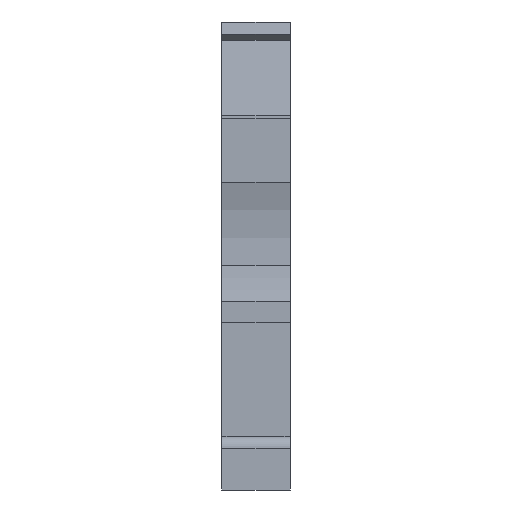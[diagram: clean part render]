
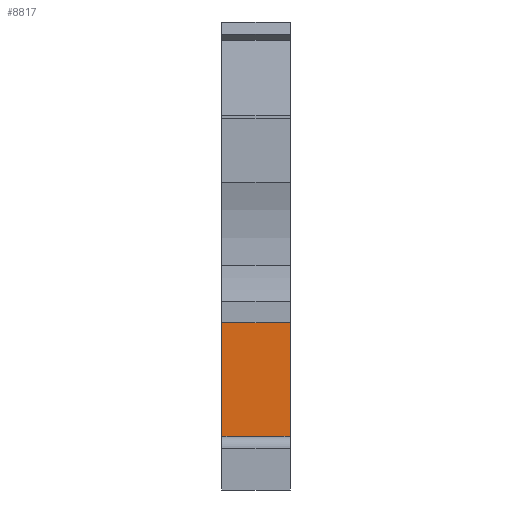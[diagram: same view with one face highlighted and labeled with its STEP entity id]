
A CAD part, front view. The second image highlights one B-rep face of the part: STEP entity #8817.
In plain terms, the highlighted planar face has unit normal (0, -1, 0).
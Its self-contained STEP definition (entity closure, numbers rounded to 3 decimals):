
#574=CARTESIAN_POINT('',(5.15,3.8,12.65));
#575=VERTEX_POINT('',#574);
#582=CARTESIAN_POINT('',(5.15,3.8,1.55));
#583=VERTEX_POINT('',#582);
#584=CARTESIAN_POINT('',(5.15,3.8,1.55));
#585=DIRECTION('',(0.,0.,1.));
#586=VECTOR('',#585,11.1);
#587=LINE('',#584,#586);
#588=EDGE_CURVE('',#583,#575,#587,.T.);
#844=CARTESIAN_POINT('',(1.,3.8,1.55));
#845=VERTEX_POINT('',#844);
#846=CARTESIAN_POINT('',(5.15,3.8,1.55));
#847=DIRECTION('',(-1.,0.,0.));
#848=VECTOR('',#847,4.15);
#849=LINE('',#846,#848);
#850=EDGE_CURVE('',#583,#845,#849,.T.);
#5134=CARTESIAN_POINT('',(1.,3.8,4.05));
#5135=VERTEX_POINT('',#5134);
#5142=CARTESIAN_POINT('',(0.,3.8,4.05));
#5143=VERTEX_POINT('',#5142);
#5144=CARTESIAN_POINT('',(0.,3.8,4.05));
#5145=DIRECTION('',(1.,0.,-0.));
#5146=VECTOR('',#5145,1.);
#5147=LINE('',#5144,#5146);
#5148=EDGE_CURVE('',#5143,#5135,#5147,.T.);
#8782=CARTESIAN_POINT('',(1.,3.8,1.55));
#8783=DIRECTION('',(0.,0.,1.));
#8784=VECTOR('',#8783,2.5);
#8785=LINE('',#8782,#8784);
#8786=EDGE_CURVE('',#845,#5135,#8785,.T.);
#8792=CARTESIAN_POINT('',(0.,3.8,12.65));
#8793=DIRECTION('',(0.,1.,0.));
#8794=DIRECTION('',(0.,0.,1.));
#8795=AXIS2_PLACEMENT_3D('',#8792,#8793,#8794);
#8796=PLANE('',#8795);
#8797=ORIENTED_EDGE('',*,*,#588,.T.);
#8798=CARTESIAN_POINT('',(0.,3.8,12.65));
#8799=VERTEX_POINT('',#8798);
#8800=CARTESIAN_POINT('',(0.,3.8,12.65));
#8801=DIRECTION('',(1.,0.,0.));
#8802=VECTOR('',#8801,5.15);
#8803=LINE('',#8800,#8802);
#8804=EDGE_CURVE('',#8799,#575,#8803,.T.);
#8805=ORIENTED_EDGE('',*,*,#8804,.F.);
#8806=CARTESIAN_POINT('',(0.,3.8,4.05));
#8807=DIRECTION('',(0.,-0.,1.));
#8808=VECTOR('',#8807,8.6);
#8809=LINE('',#8806,#8808);
#8810=EDGE_CURVE('',#5143,#8799,#8809,.T.);
#8811=ORIENTED_EDGE('',*,*,#8810,.F.);
#8812=ORIENTED_EDGE('',*,*,#5148,.T.);
#8813=ORIENTED_EDGE('',*,*,#8786,.F.);
#8814=ORIENTED_EDGE('',*,*,#850,.F.);
#8815=EDGE_LOOP('',(#8797,#8805,#8811,#8812,#8813,#8814));
#8816=FACE_BOUND('',#8815,.T.);
#8817=ADVANCED_FACE('',(#8816),#8796,.F.);
